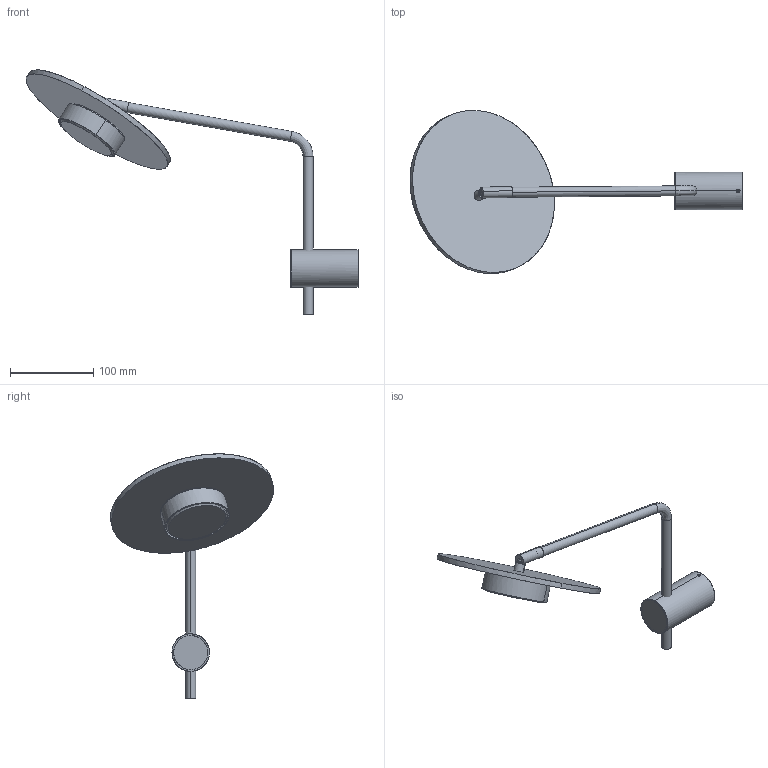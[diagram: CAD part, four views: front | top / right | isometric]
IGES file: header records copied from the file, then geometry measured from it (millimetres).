
Start section: SolidWorks IGES file using NURBS representation for surfaces
Global section: file name: Z:\Modele 3D_WWW\_KOLEKCJE_WWW\DISK\DISK-I-7645\DISK-I-7645.IGS; native system: SolidWorks 2021; preprocessor: SolidWorks 2021; author: gabriela.tworek; date: 211115.090215; units: millimetre
Bounding box: 398.81 x 195.99 x 293.46 mm (x, y, z)
Surface area: 143259.1 mm2 (no closed solid volume)
Topology: 0 solids, 0 shells, 110 faces, 2062 edges, 2058 vertices
Faces by surface type: bspline 110
